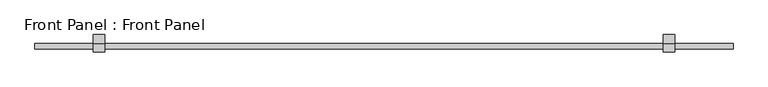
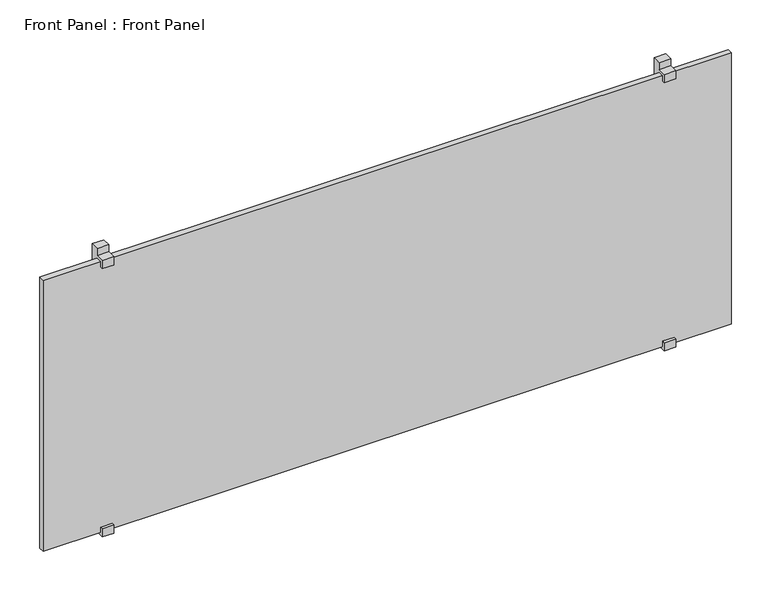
"""IFC4 building model written with IfcOpenShell, lengths in millimetres: proxy geometry, Front Panel : Front Panel."""

from ifc_helpers import new_model, si_unit, frame, origin, place, context, project, spatial, polyline, outline, extrude, source, transform, mapped, element, save


def front_panel_front_panel_c0d08beb(model_context):
    return source(origin(), model_context, "Body", "SweptSolid", [
        extrude(outline(polyline([(26.0, -40.0), (16.0, -40.0), (16.0, -50.0), (11.0, -50.0), (11.0, -35.0), (26.0, -35.0), (26.0, -22.1277116), (41.0, -22.1277116), (41.0, -545.0), (11.0, -545.0), (11.0, -530.0), (16.0, -530.0), (16.0, -540.0), (26.0, -540.0), (26.0, -40.0)])), frame((480.0, 0.0, 0.0), z_axis=(1.0, 0.0, 0.0), x_axis=(0.0, 1.0, 0.0)), (0.0, 0.0, 1.0), 20.0),
        extrude(outline(polyline([(26.0, -40.0), (16.0, -40.0), (16.0, -50.0), (11.0, -50.0), (11.0, -35.0), (26.0, -35.0), (26.0, -22.1277116), (41.0, -22.1277116), (41.0, -545.0), (11.0, -545.0), (11.0, -530.0), (16.0, -530.0), (16.0, -540.0), (26.0, -540.0), (26.0, -40.0)])), frame((-500.0, 0.0, 0.0), z_axis=(1.0, 0.0, 0.0), x_axis=(0.0, 1.0, 0.0)), (0.0, 0.0, 1.0), 20.0),
        extrude(outline(polyline([(600.0, 26.0), (600.0, 16.0), (-600.0, 16.0), (-600.0, 26.0), (600.0, 26.0)])), frame((0.0, 0.0, -540.0), z_axis=(0.0, 0.0, 1.0), x_axis=(1.0, 0.0, 0.0)), (0.0, 0.0, 1.0), 500.0),
    ])


if __name__ == "__main__":
    model = new_model("IFC4")
    model_context = context("Model", 3, world=origin())
    ifc_project = project(units=[si_unit("LENGTHUNIT", "METRE", prefix="MILLI")], contexts=[model_context])
    site = spatial("IfcSite", under=ifc_project)
    building = spatial("IfcBuilding", under=site)
    placement = place(None, origin())
    front_panel_front_panel_shape = front_panel_front_panel_c0d08beb(model_context)
    element("IfcBuildingElementProxy", 1, Name="Front Panel : Front Panel", ObjectType="Front Panel : Front Panel", at=placement, inside=building, context=model_context, shape_type="MappedRepresentation", body=[
        mapped(front_panel_front_panel_shape, transform((0.0, 0.0, 0.0), x_axis=(1.0, 0.0, 0.0), y_axis=(0.0, 1.0, 0.0), z_axis=(0.0, 0.0, 1.0))),
    ])
    save(model, "model.ifc")
